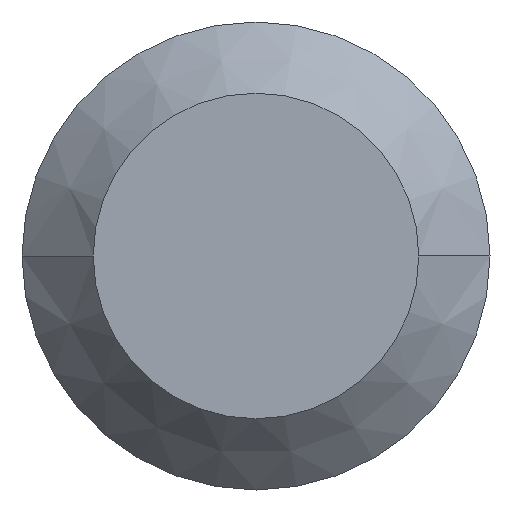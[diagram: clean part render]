
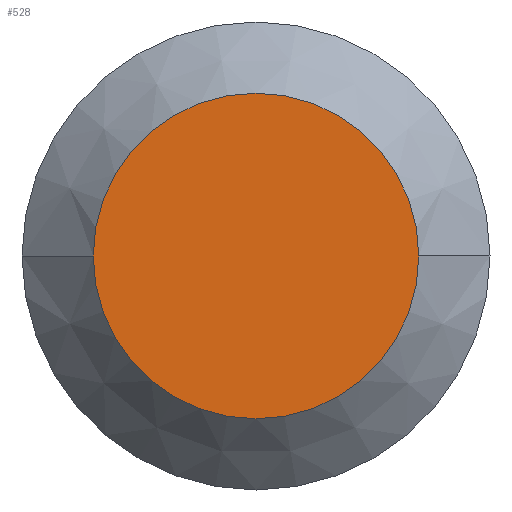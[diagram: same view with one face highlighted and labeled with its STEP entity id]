
A CAD part, front view. The second image highlights one B-rep face of the part: STEP entity #528.
In plain terms, the highlighted planar face has unit normal (0, -1, 0).
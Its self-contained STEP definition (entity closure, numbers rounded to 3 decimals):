
#129 = CARTESIAN_POINT ( 'NONE',  ( 8., 0., 0. ) ) ;
#274 = ORIENTED_EDGE ( 'NONE', *, *, #497, .F. ) ;
#289 = CARTESIAN_POINT ( 'NONE',  ( 0., 0., 0. ) ) ;
#290 = DIRECTION ( 'NONE',  ( 0., 1., 0. ) ) ;
#291 = DIRECTION ( 'NONE',  ( -1., 0., 0. ) ) ;
#381 = CARTESIAN_POINT ( 'NONE',  ( 0., 0., 0. ) ) ;
#382 = DIRECTION ( 'NONE',  ( 0., 1., 0. ) ) ;
#383 = DIRECTION ( 'NONE',  ( -1., 0., 0. ) ) ;
#497 = EDGE_CURVE ( 'NONE', #823, #651, #909, .T. ) ;
#507 = EDGE_CURVE ( 'NONE', #651, #823, #894, .T. ) ;
#528 = ADVANCED_FACE ( 'NONE', ( #770 ), #771, .T. ) ;
#651 = VERTEX_POINT ( 'NONE', #129 ) ;
#768 = CARTESIAN_POINT ( 'NONE',  ( -8., 0., 0. ) ) ;
#770 = FACE_OUTER_BOUND ( 'NONE', #1011, .T. ) ;
#771 = PLANE ( 'NONE',  #1497 ) ;
#774 = DIRECTION ( 'NONE',  ( 0., -1., 0. ) ) ;
#775 = DIRECTION ( 'NONE',  ( 1., 0., 0. ) ) ;
#809 = ORIENTED_EDGE ( 'NONE', *, *, #507, .F. ) ;
#823 = VERTEX_POINT ( 'NONE', #1236 ) ;
#891 = AXIS2_PLACEMENT_3D ( 'NONE', #289, #290, #291 ) ;
#894 = CIRCLE ( 'NONE', #891, 8. ) ;
#907 = AXIS2_PLACEMENT_3D ( 'NONE', #381, #382, #383 ) ;
#909 = CIRCLE ( 'NONE', #907, 8. ) ;
#1011 = EDGE_LOOP ( 'NONE', ( #274, #809 ) ) ;
#1236 = CARTESIAN_POINT ( 'NONE',  ( -8., 0., 0. ) ) ;
#1497 = AXIS2_PLACEMENT_3D ( 'NONE', #768, #774, #775 ) ;
